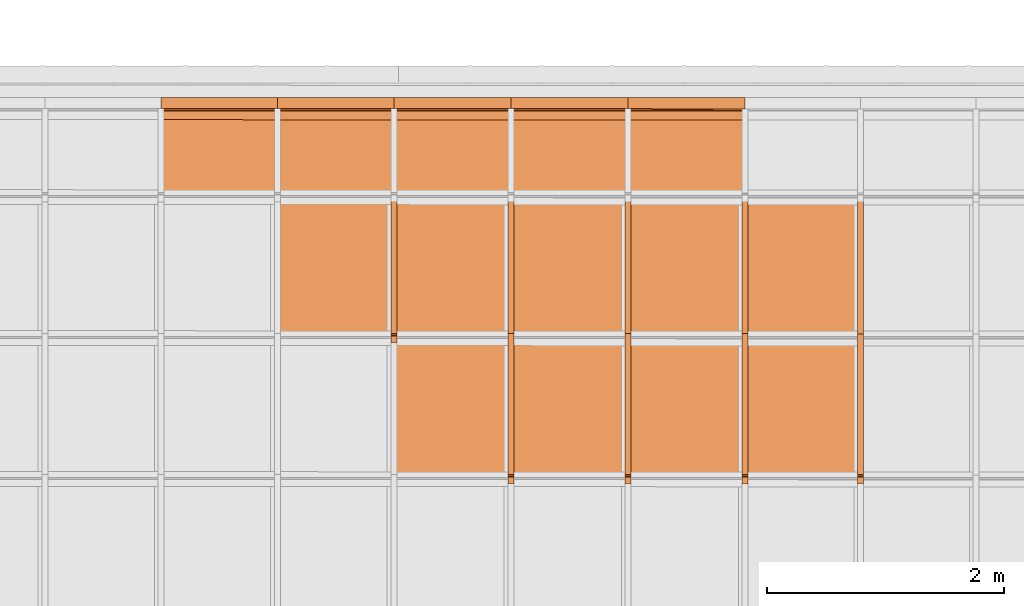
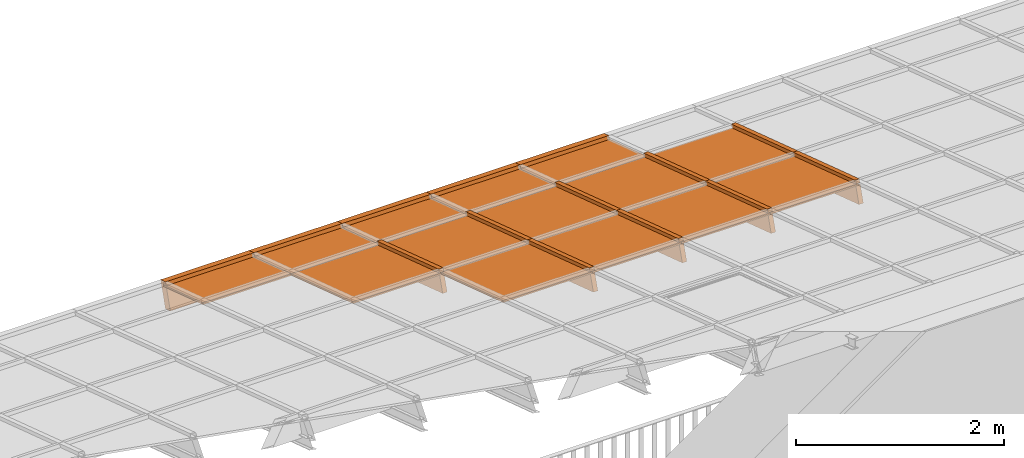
# One storey, part 36 of 47: 28 proxies, 1 element without a shape of its own.
"""IFC2X3 building model written with IfcOpenShell, lengths in millimetres."""

from ifc_helpers import new_model, entity, si_unit, converted_unit, derived_unit, money_unit, direction, frame, origin_with_axes, place, context, subcontext, project, spatial, polyline, outline, extrude, material, material_list, type_object, element, aggregate, save


model = new_model("IFC2X3")

# Units and contexts
model_context = context("Model", 3, precision=1e-05, world=origin_with_axes(), true_north=direction((0.0, 1.0)))
body_context = subcontext(model_context, "Body", "Model", "MODEL_VIEW")
ifc_project = project(units=[si_unit("LENGTHUNIT", "METRE", prefix="MILLI"), si_unit("AREAUNIT", "SQUARE_METRE"), si_unit("VOLUMEUNIT", "CUBIC_METRE"), converted_unit("PLANEANGLEUNIT", "DEGREE", entity("IfcPlaneAngleMeasure", 0.0174532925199), si_unit("PLANEANGLEUNIT", "RADIAN"), dimensions=[0, 0, 0, 0, 0, 0, 0]), si_unit("SOLIDANGLEUNIT", "STERADIAN"), money_unit("EUR"), converted_unit("TIMEUNIT", "Year", entity("IfcTimeMeasure", 31556926.0), si_unit("TIMEUNIT", "SECOND"), dimensions=[0, 0, 1, 0, 0, 0, 0]), si_unit("MASSUNIT", "GRAM", prefix="KILO"), si_unit("THERMODYNAMICTEMPERATUREUNIT", "DEGREE_CELSIUS"), si_unit("LUMINOUSINTENSITYUNIT", "LUMEN"), si_unit("ENERGYUNIT", "JOULE", prefix="MEGA"), derived_unit("THERMALCONDUCTANCEUNIT", [(si_unit("POWERUNIT", "WATT"), 1), (si_unit("LENGTHUNIT", "METRE"), -1), (si_unit("THERMODYNAMICTEMPERATUREUNIT", "KELVIN"), -1)]), derived_unit("SPECIFICHEATCAPACITYUNIT", [(si_unit("ENERGYUNIT", "JOULE"), 1), (si_unit("MASSUNIT", "GRAM", prefix="KILO"), -1), (si_unit("THERMODYNAMICTEMPERATUREUNIT", "KELVIN"), -1)]), derived_unit("MASSDENSITYUNIT", [(si_unit("MASSUNIT", "GRAM", prefix="KILO"), 1), (si_unit("VOLUMEUNIT", "CUBIC_METRE"), -1)])], contexts=[model_context])

# Site, building, storey
site_placement = place(None, origin_with_axes())
site = spatial("IfcSite", under=ifc_project, at=site_placement, Name="Site", CompositionType="ELEMENT")
building_placement = place(site_placement, origin_with_axes())
building = spatial("IfcBuilding", under=site, at=building_placement, Name="Building", CompositionType="ELEMENT")
storey_placement = place(building_placement, frame((0.0, 0.0, 6000.0), z_axis=(0.0, 0.0, 1.0), x_axis=(1.0, 0.0, 0.0)))
storey = spatial("IfcBuildingStorey", under=building, at=storey_placement, Name="KATUSEPLAAN", CompositionType="ELEMENT", Elevation=6000.0)

# Curtain wall, proxies
curtain_wall_type = type_object("IfcCurtainWallType", Name="KK-2", PredefinedType="NOTDEFINED")
curtain_wall_placement = place(storey_placement, frame((71638.1505463, 41358.6055567, 722.550081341), z_axis=(0.0, 0.0, 1.0), x_axis=(1.0, 0.0, 0.0)))
curtain_wall = element("IfcCurtainWall", 1, at=curtain_wall_placement, inside=storey, type_object=curtain_wall_type, Name="Talveaja klaaskatus")
ifc_material_1 = material(Name="Klaas")
building_element_proxy_type_1 = type_object("IfcBuildingElementProxyType", Name="Panel-Main-129", PredefinedType="NOTDEFINED")
proxy_1_placement = place(curtain_wall_placement, frame((3919.99833874, 4631.88526791, 453.96093186), z_axis=(0.0, 0.0, 1.0), x_axis=(-0.999995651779, 0.00294896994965, 0.0)))
proxy_1 = element("IfcBuildingElementProxy", 2, at=proxy_1_placement, type_object=building_element_proxy_type_1, material=ifc_material_1, Name="Klaas;  Objekti nimi: Built-in CW Panel", context=body_context, shape_type="SweptSolid", body=[
    extrude(outline(polyline([(488.233079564, -631.370301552), (488.247097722, -626.370316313), (493.247064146, -626.38433447), (496.749044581, 623.610771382), (491.74905934, 623.624770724), (491.763077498, 628.624755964), (-488.233069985, 631.37030155), (-488.247088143, 626.370316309), (-493.247073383, 626.384315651), (-496.749035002, -623.610752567), (-491.749049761, -623.624770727), (-491.763067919, -628.624755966), (488.233079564, -631.370301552)])), frame((0.0, -3.12191252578, 9.50019274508), z_axis=(0.0, 0.312191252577, -0.950019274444), x_axis=(1.0, 0.0, 0.0)), (0.0, 0.0, 1.0), 20.0000000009),
])
building_element_proxy_type_2 = type_object("IfcBuildingElementProxyType", Name="Panel-Dist-161", PredefinedType="NOTDEFINED")
proxy_2_placement = place(curtain_wall_placement, frame((4902.99792215, 4631.60273852, 453.101171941), z_axis=(0.0, 0.0, 1.0), x_axis=(-0.999995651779, 0.00294896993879, 0.0)))
proxy_2 = element("IfcBuildingElementProxy", 3, at=proxy_2_placement, type_object=building_element_proxy_type_2, material=ifc_material_1, Name="Klaas;  Objekti nimi: Built-in CW Panel", context=body_context, shape_type="SweptSolid", body=[
    extrude(outline(polyline([(491.23306732, -631.37870629), (491.247085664, -626.378729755), (496.247062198, -626.392729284), (499.749032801, 623.602363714), (494.749056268, 623.616363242), (494.763055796, 628.616358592), (-491.233080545, 631.378706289), (-491.247080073, 626.37871094), (-496.247075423, 626.392729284), (-499.749046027, -623.602344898), (-494.749050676, -623.61636324), (-494.763069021, -628.616339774), (491.23306732, -631.37870629)])), frame((0.0, -3.12191252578, 9.50019274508), z_axis=(0.0, 0.312191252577, -0.950019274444), x_axis=(1.0, 0.0, 0.0)), (0.0, 0.0, 1.0), 20.0000000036),
])
building_element_proxy_type_3 = type_object("IfcBuildingElementProxyType", Name="Panel-Main-130", PredefinedType="NOTDEFINED")
proxy_3_placement = place(curtain_wall_placement, frame((5888.99750429, 4631.3193469, 452.238788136), z_axis=(0.0, 0.0, 1.0), x_axis=(-0.999995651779, 0.00294896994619, 0.0)))
proxy_3 = element("IfcBuildingElementProxy", 4, at=proxy_3_placement, type_object=building_element_proxy_type_3, material=ifc_material_1, Name="Klaas;  Objekti nimi: Built-in CW Panel", context=body_context, shape_type="SweptSolid", body=[
    extrude(outline(polyline([(491.233067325, -631.378706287), (491.247085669, -626.378729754), (496.247062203, -626.392729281), (499.749032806, 623.602363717), (494.749056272, 623.616363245), (494.7630558, 628.616358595), (-491.233080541, 631.378706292), (-491.247080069, 626.378710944), (-496.247075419, 626.392729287), (-499.749046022, -623.602344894), (-494.749050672, -623.616363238), (-494.763069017, -628.616339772), (491.233067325, -631.378706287)])), frame((1.13686837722e-10, -3.12191252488, 9.50019274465), z_axis=(0.0, 0.312191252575, -0.950019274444), x_axis=(1.0, 0.0, 0.0)), (0.0, 0.0, 1.0), 20.0000000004),
])
building_element_proxy_type_4 = type_object("IfcBuildingElementProxyType", Name="Panel-Dist-162", PredefinedType="NOTDEFINED")
proxy_4_placement = place(curtain_wall_placement, frame((6874.99708643, 4631.03595527, 451.376404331), z_axis=(0.0, 0.0, 1.0), x_axis=(-0.999995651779, 0.00294896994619, 0.0)))
proxy_4 = element("IfcBuildingElementProxy", 5, at=proxy_4_placement, type_object=building_element_proxy_type_4, material=ifc_material_1, Name="Klaas;  Objekti nimi: Built-in CW Panel", context=body_context, shape_type="SweptSolid", body=[
    extrude(outline(polyline([(491.233067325, -631.378706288), (491.247085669, -626.378729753), (496.247062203, -626.392729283), (499.749032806, 623.602363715), (494.749056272, 623.616363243), (494.7630558, 628.616358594), (-491.233080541, 631.37870629), (-491.247080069, 626.378710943), (-496.247075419, 626.392729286), (-499.749046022, -623.602344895), (-494.749050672, -623.616363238), (-494.763069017, -628.616339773), (491.233067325, -631.378706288)])), frame((1.13686837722e-10, -3.12191252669, 9.50019274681), z_axis=(0.0, 0.312191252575, -0.950019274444), x_axis=(1.0, 0.0, 0.0)), (0.0, 0.0, 1.0), 20.0000000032),
])
building_element_proxy_type_5 = type_object("IfcBuildingElementProxyType", Name="Panel-Main-131", PredefinedType="NOTDEFINED")
proxy_5_placement = place(curtain_wall_placement, frame((7854.49667133, 4630.75443184, 450.519705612), z_axis=(0.0, 0.0, 1.0), x_axis=(-0.999995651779, 0.00294896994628, 0.0)))
proxy_5 = element("IfcBuildingElementProxy", 6, at=proxy_5_placement, type_object=building_element_proxy_type_5, material=ifc_material_1, Name="Klaas;  Objekti nimi: Built-in CW Panel", context=body_context, shape_type="SweptSolid", body=[
    extrude(outline(polyline([(484.733112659, -631.360496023), (484.747111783, -626.360513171), (489.747075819, -626.374531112), (493.249058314, 623.62057977), (488.249075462, 623.634578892), (488.263093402, 628.634561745), (-484.733080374, 631.360496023), (-484.747098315, 626.360513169), (-489.747081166, 626.374512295), (-493.249044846, -623.620579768), (-488.249061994, -623.634578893), (-488.263079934, -628.634561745), (484.733112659, -631.360496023)])), frame((0.0, -3.12191252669, 9.50019274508), z_axis=(0.0, 0.312191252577, -0.950019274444), x_axis=(1.0, 0.0, 0.0)), (0.0, 0.0, 1.0), 20.0000000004),
])
building_element_proxy_type_6 = type_object("IfcBuildingElementProxyType", Name="Panel-Main-141", PredefinedType="NOTDEFINED")
proxy_6_placement = place(curtain_wall_placement, frame((4902.99792215, 3444.07814221, 843.338706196), z_axis=(0.0, 0.0, 1.0), x_axis=(-0.999995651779, 0.00294896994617, 0.0)))
proxy_6 = element("IfcBuildingElementProxy", 7, at=proxy_6_placement, type_object=building_element_proxy_type_6, material=ifc_material_1, Name="Klaas;  Objekti nimi: Built-in CW Panel", context=body_context, shape_type="SweptSolid", body=[
    extrude(outline(polyline([(491.233067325, -631.37870629), (491.247085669, -626.378729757), (496.247062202, -626.392729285), (499.749032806, 623.602363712), (494.749056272, 623.616363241), (494.7630558, 628.61635859), (-491.233080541, 631.378706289), (-491.247080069, 626.37871094), (-496.247075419, 626.392729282), (-499.749046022, -623.602344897), (-494.749050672, -623.616363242), (-494.763069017, -628.616339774), (491.233067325, -631.37870629)])), frame((0.0, -3.1219125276, 9.50019274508), z_axis=(0.0, 0.312191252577, -0.950019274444), x_axis=(1.0, 0.0, 0.0)), (0.0, 0.0, 1.0), 20.0000000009),
])
building_element_proxy_type_7 = type_object("IfcBuildingElementProxyType", Name="Panel-Dist-173", PredefinedType="NOTDEFINED")
proxy_7_placement = place(curtain_wall_placement, frame((5888.99750429, 3443.79475058, 842.476322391), z_axis=(0.0, 0.0, 1.0), x_axis=(-0.999995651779, 0.00294896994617, 0.0)))
proxy_7 = element("IfcBuildingElementProxy", 8, at=proxy_7_placement, type_object=building_element_proxy_type_7, material=ifc_material_1, Name="Klaas;  Objekti nimi: Built-in CW Panel", context=body_context, shape_type="SweptSolid", body=[
    extrude(outline(polyline([(491.233067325, -631.37870629), (491.247085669, -626.378729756), (496.247062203, -626.392729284), (499.749032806, 623.602363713), (494.749056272, 623.616363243), (494.7630558, 628.616358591), (-491.233080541, 631.378706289), (-491.247080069, 626.378710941), (-496.247075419, 626.392729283), (-499.749046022, -623.602344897), (-494.749050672, -623.61636324), (-494.763069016, -628.616339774), (491.233067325, -631.37870629)])), frame((1.13686837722e-10, -3.12191252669, 9.50019274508), z_axis=(0.0, 0.312191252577, -0.950019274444), x_axis=(1.0, 0.0, 0.0)), (0.0, 0.0, 1.0), 20.0000000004),
])
building_element_proxy_type_8 = type_object("IfcBuildingElementProxyType", Name="Panel-Main-142", PredefinedType="NOTDEFINED")
proxy_8_placement = place(curtain_wall_placement, frame((6874.99708643, 3443.51135895, 841.613938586), z_axis=(0.0, 0.0, 1.0), x_axis=(-0.999995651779, 0.00294896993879, 0.0)))
proxy_8 = element("IfcBuildingElementProxy", 9, at=proxy_8_placement, type_object=building_element_proxy_type_8, material=ifc_material_1, Name="Klaas;  Objekti nimi: Built-in CW Panel", context=body_context, shape_type="SweptSolid", body=[
    extrude(outline(polyline([(491.23306732, -631.378706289), (491.247085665, -626.378729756), (496.247062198, -626.392729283), (499.749032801, 623.602363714), (494.749056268, 623.616363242), (494.763055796, 628.616358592), (-491.233080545, 631.37870629), (-491.247080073, 626.37871094), (-496.247075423, 626.392729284), (-499.749046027, -623.602344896), (-494.749050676, -623.616363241), (-494.763069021, -628.616339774), (491.23306732, -631.378706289)])), frame((0.0, -3.1219125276, 9.50019274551), z_axis=(0.0, 0.312191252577, -0.950019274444), x_axis=(1.0, 0.0, 0.0)), (0.0, 0.0, 1.0), 20.0000000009),
])
building_element_proxy_type_9 = type_object("IfcBuildingElementProxyType", Name="Panel-Dist-174", PredefinedType="NOTDEFINED")
proxy_9_placement = place(curtain_wall_placement, frame((7854.49667133, 3443.22983553, 840.757239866), z_axis=(0.0, 0.0, 1.0), x_axis=(-0.999995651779, 0.00294896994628, 0.0)))
proxy_9 = element("IfcBuildingElementProxy", 10, at=proxy_9_placement, type_object=building_element_proxy_type_9, material=ifc_material_1, Name="Klaas;  Objekti nimi: Built-in CW Panel", context=body_context, shape_type="SweptSolid", body=[
    extrude(outline(polyline([(484.733112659, -631.360496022), (484.747111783, -626.360513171), (489.747075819, -626.374531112), (493.249058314, 623.62057977), (488.249075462, 623.634578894), (488.263093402, 628.634561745), (-484.733080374, 631.360496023), (-484.747098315, 626.36051317), (-489.747081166, 626.374512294), (-493.249044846, -623.620579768), (-488.249061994, -623.634578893), (-488.263079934, -628.634561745), (484.733112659, -631.360496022)])), frame((0.0, -3.12191252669, 9.50019274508), z_axis=(0.0, 0.312191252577, -0.950019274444), x_axis=(1.0, 0.0, 0.0)), (0.0, 0.0, 1.0), 20.0000000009),
])
building_element_proxy_type_10 = type_object("IfcBuildingElementProxyType", Name="Panel-Main-118", PredefinedType="NOTDEFINED")
proxy_10_placement = place(curtain_wall_placement, frame((4902.99792215, 5602.87389128, 133.927606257), z_axis=(0.0, 0.0, 1.0), x_axis=(-0.999995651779, 0.00294896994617, 0.0)))
proxy_10 = element("IfcBuildingElementProxy", 11, at=proxy_10_placement, type_object=building_element_proxy_type_10, material=ifc_material_1, Name="Klaas;  Objekti nimi: Built-in CW Panel", context=body_context, shape_type="SweptSolid", body=[
    extrude(outline(polyline([(491.870799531, -403.749116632), (491.884796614, -398.749123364), (496.884789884, -398.763135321), (499.1113079, 395.972765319), (494.111329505, 395.986777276), (494.055296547, 375.986848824), (-491.940829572, 378.749212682), (-491.884796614, 398.74912626), (-496.884789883, 398.763138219), (-499.111307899, -395.972762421), (-494.111329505, -395.986774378), (-494.125326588, -400.986752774), (491.870799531, -403.749116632)])), frame((0.0, -3.12191252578, 9.50019274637), z_axis=(0.0, 0.312191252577, -0.950019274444), x_axis=(1.0, 0.0, 0.0)), (0.0, 0.0, 1.0), 20.0000000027),
])
building_element_proxy_type_11 = type_object("IfcBuildingElementProxyType", Name="Panel-Main-119", PredefinedType="NOTDEFINED")
proxy_11_placement = place(curtain_wall_placement, frame((2939.99875405, 5603.4380878, 135.64450221), z_axis=(0.0, 0.0, 1.0), x_axis=(-0.999995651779, 0.00294896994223, 0.0)))
proxy_11 = element("IfcBuildingElementProxy", 12, at=proxy_11_placement, type_object=building_element_proxy_type_11, material=ifc_material_1, Name="Klaas;  Objekti nimi: Built-in CW Panel", context=body_context, shape_type="SweptSolid", body=[
    extrude(outline(polyline([(488.870818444, -403.740707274), (488.884820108, -398.740723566), (493.88478903, -398.754740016), (496.111319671, 395.981176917), (491.111335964, 395.995178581), (491.055314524, 375.995258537), (-488.940856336, 378.740796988), (-488.884805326, 398.740731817), (-493.884789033, 398.754733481), (-496.111319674, -395.981168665), (-491.111335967, -395.995170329), (-491.12533763, -400.995154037), (488.870818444, -403.740707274)])), frame((0.0, -3.12191252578, 9.50019274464), z_axis=(0.0, 0.312191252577, -0.950019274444), x_axis=(1.0, 0.0, 0.0)), (0.0, 0.0, 1.0), 20.0000000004),
])
building_element_proxy_type_12 = type_object("IfcBuildingElementProxyType", Name="Panel-Main-075", PredefinedType="NOTDEFINED")
proxy_12_placement = place(curtain_wall_placement, frame((5888.99750429, 5602.59049965, 133.065222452), z_axis=(0.0, 0.0, 1.0), x_axis=(-0.999995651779, 0.00294896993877, 0.0)))
proxy_12 = element("IfcBuildingElementProxy", 13, at=proxy_12_placement, type_object=building_element_proxy_type_12, material=ifc_material_1, Name="Klaas;  Objekti nimi: Built-in CW Panel", context=body_context, shape_type="SweptSolid", body=[
    extrude(outline(polyline([(491.870799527, -403.749116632), (491.884796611, -398.749123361), (496.88478988, -398.763135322), (499.111307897, 395.972765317), (494.111329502, 395.986777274), (494.055296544, 375.986848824), (-491.940829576, 378.749212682), (-491.884796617, 398.749126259), (-496.884789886, 398.763138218), (-499.111307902, -395.972762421), (-494.111329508, -395.986774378), (-494.125326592, -400.986752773), (491.870799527, -403.749116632)])), frame((1.13686837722e-10, -3.12191252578, 9.50019274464), z_axis=(0.0, 0.312191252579, -0.950019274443), x_axis=(1.0, 0.0, 0.0)), (0.0, 0.0, 1.0), 20.0000000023),
])
building_element_proxy_type_13 = type_object("IfcBuildingElementProxyType", Name="Panel-Main-074", PredefinedType="NOTDEFINED")
proxy_13_placement = place(curtain_wall_placement, frame((3919.99833874, 5603.15642066, 134.787366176), z_axis=(0.0, 0.0, 1.0), x_axis=(-0.999995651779, 0.00294896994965, 0.0)))
proxy_13 = element("IfcBuildingElementProxy", 14, at=proxy_13_placement, type_object=building_element_proxy_type_13, material=ifc_material_1, Name="Klaas;  Objekti nimi: Built-in CW Panel", context=body_context, shape_type="SweptSolid", body=[
    extrude(outline(polyline([(488.870818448, -403.740707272), (488.884820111, -398.740723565), (493.884789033, -398.754740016), (496.111319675, 395.981176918), (491.111335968, 395.995178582), (491.055314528, 375.995258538), (-488.940856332, 378.740796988), (-488.884805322, 398.740731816), (-493.884789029, 398.75473348), (-496.11131967, -395.981168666), (-491.111335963, -395.995170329), (-491.125337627, -400.995154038), (488.870818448, -403.740707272)])), frame((0.0, -3.12191252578, 9.50019274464), z_axis=(0.0, 0.312191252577, -0.950019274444), x_axis=(1.0, 0.0, 0.0)), (0.0, 0.0, 1.0), 20.0000000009),
])
building_element_proxy_type_14 = type_object("IfcBuildingElementProxyType", Name="Panel-Main-120", PredefinedType="NOTDEFINED")
proxy_14_placement = place(curtain_wall_placement, frame((6874.99708643, 5602.30710803, 132.202838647), z_axis=(0.0, 0.0, 1.0), x_axis=(-0.999995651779, 0.00294896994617, 0.0)))
proxy_14 = element("IfcBuildingElementProxy", 15, at=proxy_14_placement, type_object=building_element_proxy_type_14, material=ifc_material_1, Name="Klaas;  Objekti nimi: Built-in CW Panel", context=body_context, shape_type="SweptSolid", body=[
    extrude(outline(polyline([(491.870799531, -403.749116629), (491.884796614, -398.749123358), (496.884789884, -398.763135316), (499.1113079, 395.972765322), (494.111329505, 395.986777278), (494.055296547, 375.986848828), (-491.940829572, 378.749212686), (-491.884796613, 398.749126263), (-496.884789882, 398.763138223), (-499.111307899, -395.972762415), (-494.111329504, -395.986774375), (-494.125326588, -400.986752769), (491.870799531, -403.749116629)])), frame((2.27373675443e-10, -3.12191252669, 9.50019274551), z_axis=(0.0, 0.312191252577, -0.950019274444), x_axis=(1.0, 0.0, 0.0)), (0.0, 0.0, 1.0), 20.0000000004),
])
ifc_material_2 = material(Name="Alumiinium (1)")
ifc_material_list = material_list([ifc_material_2, ifc_material_2])
building_element_proxy_type_15 = type_object("IfcBuildingElementProxyType", Name="Frame-Mll-228", PredefinedType="NOTDEFINED")
proxy_15_placement = place(curtain_wall_placement, frame((4409.99813108, 5225.5067325, 258.413596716), z_axis=(0.0, -0.950019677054, 0.312190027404), x_axis=(-0.999999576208, 0.000287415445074, 0.000874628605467)))
proxy_15 = element("IfcBuildingElementProxy", 16, at=proxy_15_placement, type_object=building_element_proxy_type_15, material=ifc_material_list, Name="Alumiinium (1);  Objekti nimi: Frame 22", context=body_context, shape_type="SweptSolid", body=[
    extrude(outline(polyline([(25.0091958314, 9.97697969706), (25.1841179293, 199.976899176), (-24.8158608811, 200.022931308), (-24.9907829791, 10.0230118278), (25.0091958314, 9.97697969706)])), frame((0.0, 0.0, -1.81898940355e-09), z_axis=(0.0, 0.0, 1.0), x_axis=(0.999999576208, 0.000920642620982, 0.0)), (0.0, 0.0, 1.0), 1250.0),
    extrude(outline(polyline([(-25.0091958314, -9.9769796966), (-25.0460215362, -49.9769627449), (24.9539572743, -50.0229948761), (24.990782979, -10.0230118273), (-25.0091958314, -9.9769796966)])), frame((0.0, 0.0, -9.09494701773e-10), z_axis=(0.0, 0.0, 1.0), x_axis=(0.999999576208, 0.000920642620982, 0.0)), (0.0, 0.0, 1.0), 1250.0),
])
building_element_proxy_type_16 = type_object("IfcBuildingElementProxyType", Name="Frame-Mll-229", PredefinedType="NOTDEFINED")
proxy_16_placement = place(curtain_wall_placement, frame((5395.99771322, 5225.22334087, 257.551212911), z_axis=(0.0, -0.950019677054, 0.312190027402), x_axis=(-0.999999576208, 0.000287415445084, 0.000874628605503)))
proxy_16 = element("IfcBuildingElementProxy", 17, at=proxy_16_placement, type_object=building_element_proxy_type_16, material=ifc_material_list, Name="Alumiinium (1);  Objekti nimi: Frame 22", context=body_context, shape_type="SweptSolid", body=[
    extrude(outline(polyline([(25.0091958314, 9.9769796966), (25.1841179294, 199.976899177), (-24.8158608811, 200.022931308), (-24.9907829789, 10.0230118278), (25.0091958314, 9.9769796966)])), frame((0.0, 4.54747350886e-10, -2.72848410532e-09), z_axis=(0.0, 0.0, 1.0), x_axis=(0.999999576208, 0.000920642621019, 0.0)), (0.0, 0.0, 1.0), 1250.00000001),
    extrude(outline(polyline([(-25.0091958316, -9.97697969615), (-25.0460215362, -49.9769627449), (24.9539572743, -50.0229948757), (24.9907829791, -10.0230118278), (-25.0091958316, -9.97697969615)])), frame((0.0, 4.54747350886e-10, -2.72848410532e-09), z_axis=(0.0, 0.0, 1.0), x_axis=(0.999999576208, 0.000920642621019, 0.0)), (0.0, 0.0, 1.0), 1250.00000001),
])
building_element_proxy_type_17 = type_object("IfcBuildingElementProxyType", Name="Frame-Mll-230", PredefinedType="NOTDEFINED")
proxy_17_placement = place(curtain_wall_placement, frame((6381.99729536, 5224.93994924, 256.688829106), z_axis=(0.0, -0.950019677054, 0.312190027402), x_axis=(-0.999999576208, 0.000287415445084, 0.000874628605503)))
proxy_17 = element("IfcBuildingElementProxy", 18, at=proxy_17_placement, type_object=building_element_proxy_type_17, material=ifc_material_list, Name="Alumiinium (1);  Objekti nimi: Frame 22", context=body_context, shape_type="SweptSolid", body=[
    extrude(outline(polyline([(25.0091958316, 9.97697969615), (25.1841179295, 199.976899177), (-24.8158608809, 200.022931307), (-24.9907829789, 10.0230118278), (25.0091958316, 9.97697969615)])), frame((0.0, 0.0, -1.81898940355e-09), z_axis=(0.0, 0.0, 1.0), x_axis=(0.999999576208, 0.000920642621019, 0.0)), (0.0, 0.0, 1.0), 1250.00000001),
    extrude(outline(polyline([(-25.0091958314, -9.9769796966), (-25.0460215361, -49.9769627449), (24.9539572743, -50.0229948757), (24.9907829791, -10.0230118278), (-25.0091958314, -9.9769796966)])), frame((0.0, 0.0, -1.81898940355e-09), z_axis=(0.0, 0.0, 1.0), x_axis=(0.999999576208, 0.000920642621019, 0.0)), (0.0, 0.0, 1.0), 1250.00000001),
])
building_element_proxy_type_18 = type_object("IfcBuildingElementProxyType", Name="Frame-Mll-231", PredefinedType="NOTDEFINED")
proxy_18_placement = place(curtain_wall_placement, frame((7367.9968775, 5224.65655761, 255.826445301), z_axis=(0.0, -0.950019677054, 0.312190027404), x_axis=(-0.999999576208, 0.00028741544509, 0.000874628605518)))
proxy_18 = element("IfcBuildingElementProxy", 19, at=proxy_18_placement, type_object=building_element_proxy_type_18, material=ifc_material_list, Name="Alumiinium (1);  Objekti nimi: Frame 22", context=body_context, shape_type="SweptSolid", body=[
    extrude(outline(polyline([(25.0091958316, 9.97697969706), (25.1841179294, 199.976899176), (-24.8158608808, 200.022931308), (-24.9907829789, 10.0230118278), (25.0091958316, 9.97697969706)])), frame((0.0, 0.0, 0.0), z_axis=(0.0, 0.0, 1.0), x_axis=(0.999999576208, 0.000920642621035, 0.0)), (0.0, 0.0, 1.0), 1250.0),
    extrude(outline(polyline([(-25.0091958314, -9.9769796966), (-25.046021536, -49.976962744), (24.9539572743, -50.0229948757), (24.9907829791, -10.0230118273), (-25.0091958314, -9.9769796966)])), frame((0.0, 0.0, 0.0), z_axis=(0.0, 0.0, 1.0), x_axis=(0.999999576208, 0.000920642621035, 0.0)), (0.0, 0.0, 1.0), 1250.0),
])
building_element_proxy_type_19 = type_object("IfcBuildingElementProxyType", Name="Frame-Mll-232", PredefinedType="NOTDEFINED")
proxy_19_placement = place(curtain_wall_placement, frame((8340.99646516, 5224.37690239, 254.975431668), z_axis=(0.0, -0.950019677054, 0.312190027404), x_axis=(-0.999999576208, 0.000287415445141, 0.000874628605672)))
proxy_19 = element("IfcBuildingElementProxy", 20, at=proxy_19_placement, type_object=building_element_proxy_type_19, material=ifc_material_list, Name="Alumiinium (1);  Objekti nimi: Frame 22", context=body_context, shape_type="SweptSolid", body=[
    extrude(outline(polyline([(25.0091958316, 9.9769796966), (25.1841179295, 199.976899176), (-24.8158608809, 200.022931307), (-24.990782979, 10.0230118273), (25.0091958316, 9.9769796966)])), frame((0.0, 0.0, -2.72848410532e-09), z_axis=(0.0, 0.0, 1.0), x_axis=(0.999999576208, 0.000920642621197, 0.0)), (0.0, 0.0, 1.0), 1250.0),
    extrude(outline(polyline([(-25.0091958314, -9.9769796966), (-25.0460215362, -49.9769627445), (24.9539572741, -50.0229948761), (24.990782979, -10.0230118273), (-25.0091958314, -9.9769796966)])), frame((0.0, 0.0, -2.72848410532e-09), z_axis=(0.0, 0.0, 1.0), x_axis=(0.999999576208, 0.000920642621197, 0.0)), (0.0, 0.0, 1.0), 1250.0),
])
building_element_proxy_type_20 = type_object("IfcBuildingElementProxyType", Name="Frame-Mll-252", PredefinedType="NOTDEFINED")
proxy_20_placement = place(curtain_wall_placement, frame((5395.99771322, 4037.69874455, 647.788747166), z_axis=(0.0, -0.950019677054, 0.312190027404), x_axis=(-0.999999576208, 0.000287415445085, 0.000874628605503)))
proxy_20 = element("IfcBuildingElementProxy", 21, at=proxy_20_placement, type_object=building_element_proxy_type_20, material=ifc_material_list, Name="Alumiinium (1);  Objekti nimi: Frame 22", context=body_context, shape_type="SweptSolid", body=[
    extrude(outline(polyline([(25.0091958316, 9.97697969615), (25.1841179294, 199.976899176), (-24.8158608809, 200.022931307), (-24.9907829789, 10.0230118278), (25.0091958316, 9.97697969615)])), frame((0.0, -4.54747350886e-10, -1.81898940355e-09), z_axis=(0.0, 0.0, 1.0), x_axis=(0.999999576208, 0.000920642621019, 0.0)), (0.0, 0.0, 1.0), 1250.0),
    extrude(outline(polyline([(-25.0091958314, -9.97697969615), (-25.0460215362, -49.9769627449), (24.9539572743, -50.0229948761), (24.9907829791, -10.0230118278), (-25.0091958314, -9.97697969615)])), frame((0.0, -4.54747350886e-10, -1.81898940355e-09), z_axis=(0.0, 0.0, 1.0), x_axis=(0.999999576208, 0.000920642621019, 0.0)), (0.0, 0.0, 1.0), 1250.0),
])
building_element_proxy_type_21 = type_object("IfcBuildingElementProxyType", Name="Frame-Mll-253", PredefinedType="NOTDEFINED")
proxy_21_placement = place(curtain_wall_placement, frame((6381.99729536, 4037.41535292, 646.926363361), z_axis=(0.0, -0.950019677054, 0.312190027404), x_axis=(-0.999999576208, 0.000287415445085, 0.000874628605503)))
proxy_21 = element("IfcBuildingElementProxy", 22, at=proxy_21_placement, type_object=building_element_proxy_type_21, material=ifc_material_list, Name="Alumiinium (1);  Objekti nimi: Frame 22", context=body_context, shape_type="SweptSolid", body=[
    extrude(outline(polyline([(25.0091958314, 9.9769796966), (25.1841179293, 199.976899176), (-24.8158608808, 200.022931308), (-24.990782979, 10.0230118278), (25.0091958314, 9.9769796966)])), frame((0.0, 0.0, 0.0), z_axis=(0.0, 0.0, 1.0), x_axis=(0.999999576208, 0.00092064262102, 0.0)), (0.0, 0.0, 1.0), 1250.0),
    extrude(outline(polyline([(-25.0091958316, -9.97697969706), (-25.0460215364, -49.9769627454), (24.9539572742, -50.0229948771), (24.990782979, -10.0230118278), (-25.0091958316, -9.97697969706)])), frame((0.0, 0.0, 0.0), z_axis=(0.0, 0.0, 1.0), x_axis=(0.999999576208, 0.00092064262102, 0.0)), (0.0, 0.0, 1.0), 1250.0),
])
building_element_proxy_type_22 = type_object("IfcBuildingElementProxyType", Name="Frame-Mll-254", PredefinedType="NOTDEFINED")
proxy_22_placement = place(curtain_wall_placement, frame((7367.9968775, 4037.1319613, 646.063979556), z_axis=(0.0, -0.950019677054, 0.312190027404), x_axis=(-0.999999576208, 0.00028741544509, 0.000874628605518)))
proxy_22 = element("IfcBuildingElementProxy", 23, at=proxy_22_placement, type_object=building_element_proxy_type_22, material=ifc_material_list, Name="Alumiinium (1);  Objekti nimi: Frame 22", context=body_context, shape_type="SweptSolid", body=[
    extrude(outline(polyline([(25.0091958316, 9.9769796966), (25.1841179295, 199.976899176), (-24.8158608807, 200.022931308), (-24.9907829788, 10.0230118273), (25.0091958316, 9.9769796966)])), frame((0.0, 0.0, 0.0), z_axis=(0.0, 0.0, 1.0), x_axis=(0.999999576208, 0.000920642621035, 0.0)), (0.0, 0.0, 1.0), 1250.0),
    extrude(outline(polyline([(-25.0091958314, -9.9769796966), (-25.0460215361, -49.976962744), (24.9539572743, -50.0229948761), (24.9907829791, -10.0230118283), (-25.0091958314, -9.9769796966)])), frame((1.13686837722e-10, 0.0, -9.09494701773e-10), z_axis=(0.0, 0.0, 1.0), x_axis=(0.999999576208, 0.000920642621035, 0.0)), (0.0, 0.0, 1.0), 1250.0),
])
building_element_proxy_type_23 = type_object("IfcBuildingElementProxyType", Name="Frame-Mll-255", PredefinedType="NOTDEFINED")
proxy_23_placement = place(curtain_wall_placement, frame((8340.99646516, 4036.85230607, 645.212965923), z_axis=(0.0, -0.950019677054, 0.312190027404), x_axis=(-0.999999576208, 0.000287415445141, 0.000874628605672)))
proxy_23 = element("IfcBuildingElementProxy", 24, at=proxy_23_placement, type_object=building_element_proxy_type_23, material=ifc_material_list, Name="Alumiinium (1);  Objekti nimi: Frame 22", context=body_context, shape_type="SweptSolid", body=[
    extrude(outline(polyline([(25.0091958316, 9.97697969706), (25.1841179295, 199.976899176), (-24.8158608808, 200.022931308), (-24.9907829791, 10.0230118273), (25.0091958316, 9.97697969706)])), frame((0.0, 0.0, -2.72848410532e-09), z_axis=(0.0, 0.0, 1.0), x_axis=(0.999999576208, 0.000920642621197, 0.0)), (0.0, 0.0, 1.0), 1250.0),
    extrude(outline(polyline([(-25.0091958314, -9.9769796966), (-25.0460215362, -49.9769627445), (24.9539572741, -50.0229948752), (24.990782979, -10.0230118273), (-25.0091958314, -9.9769796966)])), frame((0.0, 4.54747350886e-10, -1.81898940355e-09), z_axis=(0.0, 0.0, 1.0), x_axis=(0.999999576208, 0.000920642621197, 0.0)), (0.0, 0.0, 1.0), 1250.0),
])
building_element_proxy_type_24 = type_object("IfcBuildingElementProxyType", Name="Frame-Bnd-623", PredefinedType="NOTDEFINED")
proxy_24_placement = place(curtain_wall_placement, frame((6381.99729536, 5979.95765844, 8.57923199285), z_axis=(0.999999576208, -0.000287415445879, -0.0008746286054), x_axis=(0.0, -0.950019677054, 0.312190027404)))
proxy_24 = element("IfcBuildingElementProxy", 25, at=proxy_24_placement, type_object=building_element_proxy_type_24, material=ifc_material_2, Name="Alumiinium (1);  Objekti nimi: Built-in Frame", context=body_context, shape_type="SweptSolid", body=[
    extrude(outline(polyline([(22.1222942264, 3.25639344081), (50.6228833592, -6.10931096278), (125.548518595, 221.895402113), (30.5465548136, 253.114416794), (-63.1104892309, -31.8914745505), (31.8914745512, -63.1104892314), (44.3790804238, -25.109703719), (15.8784912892, -15.7439993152), (22.1222942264, 3.25639344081)])), frame((0.0, 0.0, -5.68434188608e-10), z_axis=(0.0, 0.0, 1.0), x_axis=(0.950019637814, 0.312190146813, 0.0)), (0.0, 0.0, 1.0), 986.000000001),
])
building_element_proxy_type_25 = type_object("IfcBuildingElementProxyType", Name="Frame-Bnd-622", PredefinedType="NOTDEFINED")
proxy_25_placement = place(curtain_wall_placement, frame((5395.99771322, 5980.24105006, 9.44161579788), z_axis=(0.999999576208, -0.000287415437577, -0.000874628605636), x_axis=(0.0, -0.950019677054, 0.312190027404)))
proxy_25 = element("IfcBuildingElementProxy", 26, at=proxy_25_placement, type_object=building_element_proxy_type_25, material=ifc_material_2, Name="Alumiinium (1);  Objekti nimi: Built-in Frame", context=body_context, shape_type="SweptSolid", body=[
    extrude(outline(polyline([(22.1222942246, 3.25639344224), (50.6228833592, -6.10931096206), (125.548518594, 221.895402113), (30.5465548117, 253.114416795), (-63.1104892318, -31.8914745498), (31.8914745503, -63.1104892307), (44.3790804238, -25.1097037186), (15.8784912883, -15.7439993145), (22.1222942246, 3.25639344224)])), frame((0.0, 0.0, -6.8212102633e-10), z_axis=(0.0, 0.0, 1.0), x_axis=(0.950019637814, 0.312190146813, 0.0)), (0.0, 0.0, 1.0), 986.000000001),
])
building_element_proxy_type_26 = type_object("IfcBuildingElementProxyType", Name="Frame-Bnd-621", PredefinedType="NOTDEFINED")
proxy_26_placement = place(curtain_wall_placement, frame((4409.99813108, 5980.52444169, 10.3039996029), z_axis=(0.999999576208, -0.000287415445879, -0.000874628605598), x_axis=(0.0, -0.950019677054, 0.312190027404)))
proxy_26 = element("IfcBuildingElementProxy", 27, at=proxy_26_placement, type_object=building_element_proxy_type_26, material=ifc_material_2, Name="Alumiinium (1);  Objekti nimi: Built-in Frame", context=body_context, shape_type="SweptSolid", body=[
    extrude(outline(polyline([(22.1222942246, 3.25639344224), (50.6228833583, -6.10931096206), (125.548518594, 221.895402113), (30.5465548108, 253.114416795), (-63.1104892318, -31.8914745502), (31.8914745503, -63.1104892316), (44.3790804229, -25.109703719), (15.8784912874, -15.7439993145), (22.1222942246, 3.25639344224)])), frame((0.0, 0.0, -3.41060513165e-10), z_axis=(0.0, 0.0, 1.0), x_axis=(0.950019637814, 0.312190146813, 0.0)), (0.0, 0.0, 1.0), 986.000000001),
])
building_element_proxy_type_27 = type_object("IfcBuildingElementProxyType", Name="Frame-Bnd-620", PredefinedType="NOTDEFINED")
proxy_27_placement = place(curtain_wall_placement, frame((3429.9985464, 5980.80610883, 11.1611356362), z_axis=(0.999999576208, -0.000287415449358, -0.000874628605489), x_axis=(0.0, -0.950019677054, 0.312190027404)))
proxy_27 = element("IfcBuildingElementProxy", 28, at=proxy_27_placement, type_object=building_element_proxy_type_27, material=ifc_material_2, Name="Alumiinium (1);  Objekti nimi: Built-in Frame", context=body_context, shape_type="SweptSolid", body=[
    extrude(outline(polyline([(22.1222942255, 3.25639344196), (50.6228833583, -6.10931096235), (125.548518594, 221.895402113), (30.5465548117, 253.114416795), (-63.1104892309, -31.8914745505), (31.8914745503, -63.1104892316), (44.379080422, -25.1097037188), (15.8784912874, -15.7439993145), (22.1222942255, 3.25639344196)])), frame((0.0, 0.0, -3.41060513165e-10), z_axis=(0.0, 0.0, 1.0), x_axis=(0.950019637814, 0.312190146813, 0.0)), (0.0, 0.0, 1.0), 980.000000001),
])
building_element_proxy_type_28 = type_object("IfcBuildingElementProxyType", Name="Frame-Bnd-619", PredefinedType="NOTDEFINED")
proxy_28_placement = place(curtain_wall_placement, frame((2449.99896171, 5981.08777596, 12.0182716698), z_axis=(0.999999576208, -0.000287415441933, -0.000874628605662), x_axis=(0.0, -0.950019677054, 0.312190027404)))
proxy_28 = element("IfcBuildingElementProxy", 29, at=proxy_28_placement, type_object=building_element_proxy_type_28, material=ifc_material_2, Name="Alumiinium (1);  Objekti nimi: Built-in Frame", context=body_context, shape_type="SweptSolid", body=[
    extrude(outline(polyline([(22.1222942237, 3.25639344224), (50.6228833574, -6.10931096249), (125.548518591, 221.895402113), (30.5465548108, 253.114416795), (-63.1104892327, -31.8914745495), (31.8914745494, -63.1104892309), (44.3790804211, -25.1097037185), (15.8784912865, -15.7439993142), (22.1222942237, 3.25639344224)])), frame((0.0, 0.0, -2.27373675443e-10), z_axis=(0.0, 0.0, 1.0), x_axis=(0.950019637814, 0.312190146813, 0.0)), (0.0, 0.0, 1.0), 980.000000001),
])
aggregate(curtain_wall, [proxy_1, proxy_2, proxy_3, proxy_4, proxy_5, proxy_6, proxy_7, proxy_8, proxy_9, proxy_10, proxy_11, proxy_12, proxy_13, proxy_14, proxy_15, proxy_16, proxy_17, proxy_18, proxy_19, proxy_20, proxy_21, proxy_22, proxy_23, proxy_24, proxy_25, proxy_26, proxy_27, proxy_28])

save(model, "model.ifc")
